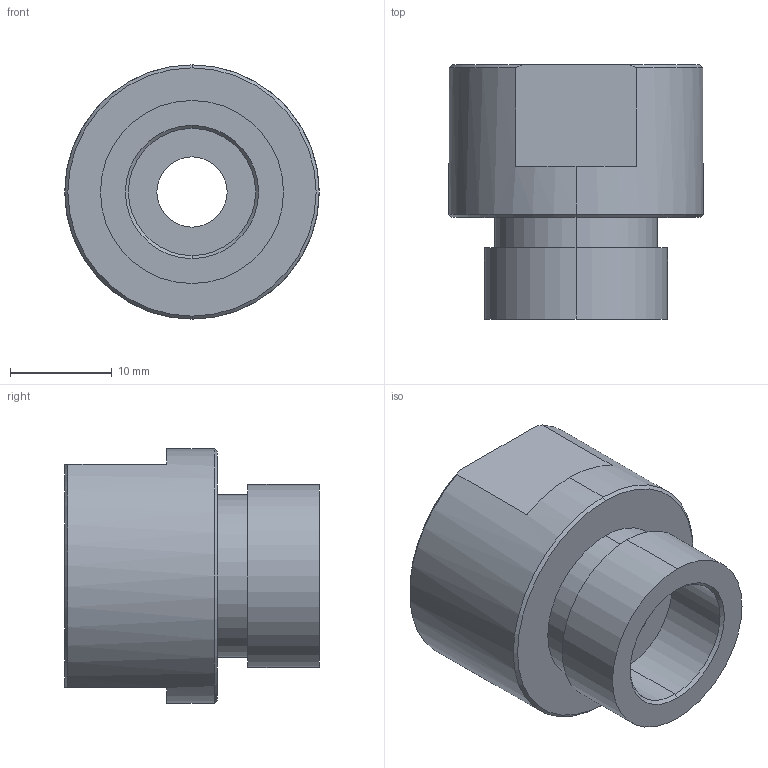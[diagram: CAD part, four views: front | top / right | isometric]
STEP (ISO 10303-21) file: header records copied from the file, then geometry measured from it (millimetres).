
FILE_DESCRIPTION (( 'STEP AP203' ), '1' );
FILE_NAME ('125MO-6.9.STEP', '2022-04-13T07:05:03', ( '' ), ( '' ), 'SwSTEP 2.0', 'SolidWorks 2015', '' );
FILE_SCHEMA (( 'CONFIG_CONTROL_DESIGN' ));
Length unit declared in the file: millimetre
Products named in the file (2): 125MO-6.9
Bounding box: 25 x 25 x 25 mm (x, y, z)
Volume: 7967.2 mm3; surface area: 3363.1 mm2
Topology: 1 solids, 1 shells, 25 faces, 56 edges, 36 vertices
Faces by surface type: cylinder 10, plane 9, cone 6
Entity records: 871 total; most frequent: DIRECTION 136, CARTESIAN_POINT 131, ORIENTED_EDGE 112, AXIS2_PLACEMENT_3D 57, EDGE_CURVE 56, VERTEX_POINT 36, EDGE_LOOP 30, CIRCLE 30
